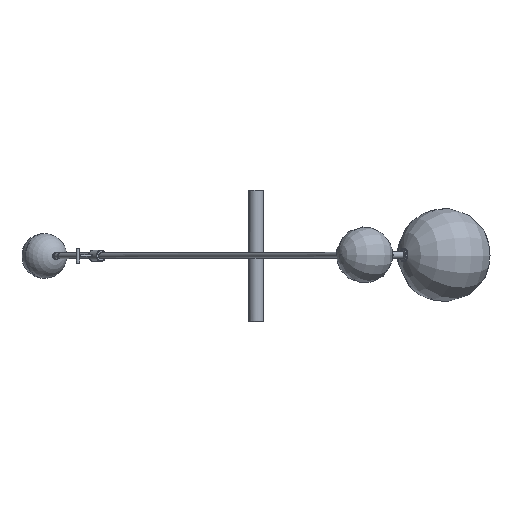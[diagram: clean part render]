
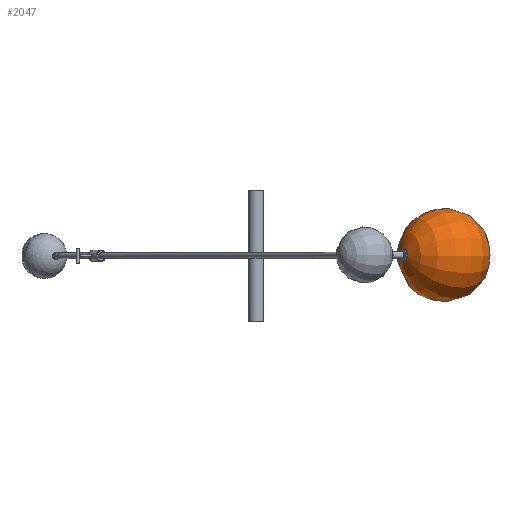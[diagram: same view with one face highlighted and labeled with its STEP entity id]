
A CAD part, top view. The second image highlights one B-rep face of the part: STEP entity #2047.
In plain terms, the highlighted free-form (B-spline) face has degree [2, 2] with [5, 9] control points.
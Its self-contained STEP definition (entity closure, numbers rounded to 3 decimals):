
#20=(
BOUNDED_SURFACE()
B_SPLINE_SURFACE(2,2,((#4102,#4103,#4104,#4105,#4106,#4107,#4108,#4109,
#4110),(#4111,#4112,#4113,#4114,#4115,#4116,#4117,#4118,#4119),(#4120,#4121,
#4122,#4123,#4124,#4125,#4126,#4127,#4128),(#4129,#4130,#4131,#4132,#4133,
#4134,#4135,#4136,#4137),(#4138,#4139,#4140,#4141,#4142,#4143,#4144,#4145,
#4146)),.UNSPECIFIED.,.F.,.T.,.F.)
B_SPLINE_SURFACE_WITH_KNOTS((3,2,3),(3,2,2,2,3),(-1.572,-0.066,
1.439),(-3.142,-1.571,0.,1.571,
3.142),.UNSPECIFIED.)
GEOMETRIC_REPRESENTATION_ITEM()
RATIONAL_B_SPLINE_SURFACE(((1.,0.707,1.,0.707,1.,
0.707,1.,0.707,1.),(0.73,0.516,
0.73,0.516,0.73,0.516,
0.73,0.516,0.73),(1.,0.707,
1.,0.707,1.,0.707,1.,0.707,1.),(0.73,
0.516,0.73,0.516,0.73,0.516,
0.73,0.516,0.73),(1.,0.707,
1.,0.707,1.,0.707,1.,0.707,1.)))
REPRESENTATION_ITEM('')
SURFACE()
);
#282=CIRCLE('',#2336,16.5);
#283=CIRCLE('',#2337,125.);
#284=CIRCLE('',#2338,16.5);
#428=FACE_OUTER_BOUND('',#583,.T.);
#583=EDGE_LOOP('',(#1774,#1775,#1776,#1777));
#964=VERTEX_POINT('',#4147);
#965=VERTEX_POINT('',#4148);
#966=VERTEX_POINT('',#4150);
#1244=EDGE_CURVE('',#964,#965,#282,.T.);
#1245=EDGE_CURVE('',#965,#966,#283,.T.);
#1246=EDGE_CURVE('',#965,#964,#284,.T.);
#1774=ORIENTED_EDGE('',*,*,#1244,.T.);
#1775=ORIENTED_EDGE('',*,*,#1245,.T.);
#1776=ORIENTED_EDGE('',*,*,#1245,.F.);
#1777=ORIENTED_EDGE('',*,*,#1246,.T.);
#2047=ADVANCED_FACE('',(#428),#20,.F.);
#2336=AXIS2_PLACEMENT_3D('',#4149,#2932,#2933);
#2337=AXIS2_PLACEMENT_3D('',#4151,#2934,#2935);
#2338=AXIS2_PLACEMENT_3D('',#4152,#2936,#2937);
#2932=DIRECTION('center_axis',(0.848,0.,
-0.53));
#2933=DIRECTION('ref_axis',(-0.075,-0.99,-0.12));
#2934=DIRECTION('center_axis',(0.489,-0.388,0.781));
#2935=DIRECTION('ref_axis',(-0.206,-0.922,-0.329));
#2936=DIRECTION('center_axis',(0.848,0.,
-0.53));
#2937=DIRECTION('ref_axis',(-0.075,-0.99,-0.12));
#4102=CARTESIAN_POINT('Ctrl Pts',(607.47,0.,
1415.241));
#4103=CARTESIAN_POINT('Ctrl Pts',(607.47,0.,
1415.241));
#4104=CARTESIAN_POINT('Ctrl Pts',(607.47,0.,
1415.241));
#4105=CARTESIAN_POINT('Ctrl Pts',(607.47,0.,
1415.241));
#4106=CARTESIAN_POINT('Ctrl Pts',(607.47,0.,
1415.241));
#4107=CARTESIAN_POINT('Ctrl Pts',(607.47,0.,
1415.241));
#4108=CARTESIAN_POINT('Ctrl Pts',(607.47,0.,
1415.241));
#4109=CARTESIAN_POINT('Ctrl Pts',(607.47,0.,
1415.241));
#4110=CARTESIAN_POINT('Ctrl Pts',(607.47,0.,
1415.241));
#4111=CARTESIAN_POINT('Ctrl Pts',(583.475,-107.932,1376.698));
#4112=CARTESIAN_POINT('Ctrl Pts',(640.728,-153.334,1468.193));
#4113=CARTESIAN_POINT('Ctrl Pts',(664.811,-45.402,1506.681));
#4114=CARTESIAN_POINT('Ctrl Pts',(688.895,62.53,1545.169));
#4115=CARTESIAN_POINT('Ctrl Pts',(631.642,107.932,1453.674));
#4116=CARTESIAN_POINT('Ctrl Pts',(574.389,153.334,1362.178));
#4117=CARTESIAN_POINT('Ctrl Pts',(550.306,45.402,1323.69));
#4118=CARTESIAN_POINT('Ctrl Pts',(526.222,-62.53,1285.202));
#4119=CARTESIAN_POINT('Ctrl Pts',(583.475,-107.932,1376.698));
#4120=CARTESIAN_POINT('Ctrl Pts',(482.838,-115.071,1436.128));
#4121=CARTESIAN_POINT('Ctrl Pts',(543.878,-163.476,1533.675));
#4122=CARTESIAN_POINT('Ctrl Pts',(569.554,-48.405,1574.709));
#4123=CARTESIAN_POINT('Ctrl Pts',(595.231,66.666,1615.742));
#4124=CARTESIAN_POINT('Ctrl Pts',(534.191,115.071,1518.195));
#4125=CARTESIAN_POINT('Ctrl Pts',(473.152,163.476,1420.648));
#4126=CARTESIAN_POINT('Ctrl Pts',(447.475,48.405,1379.615));
#4127=CARTESIAN_POINT('Ctrl Pts',(421.799,-66.666,1338.581));
#4128=CARTESIAN_POINT('Ctrl Pts',(482.838,-115.071,1436.128));
#4129=CARTESIAN_POINT('Ctrl Pts',(382.202,-122.209,1495.559));
#4130=CARTESIAN_POINT('Ctrl Pts',(447.028,-173.617,1599.157));
#4131=CARTESIAN_POINT('Ctrl Pts',(474.298,-51.408,1642.736));
#4132=CARTESIAN_POINT('Ctrl Pts',(501.567,70.802,1686.316));
#4133=CARTESIAN_POINT('Ctrl Pts',(436.741,122.209,1582.717));
#4134=CARTESIAN_POINT('Ctrl Pts',(371.914,173.617,1479.118));
#4135=CARTESIAN_POINT('Ctrl Pts',(344.645,51.408,1435.539));
#4136=CARTESIAN_POINT('Ctrl Pts',(317.375,-70.802,1391.96));
#4137=CARTESIAN_POINT('Ctrl Pts',(382.202,-122.209,1495.559));
#4138=CARTESIAN_POINT('Ctrl Pts',(393.063,-15.209,1541.858));
#4139=CARTESIAN_POINT('Ctrl Pts',(401.131,-21.607,1554.751));
#4140=CARTESIAN_POINT('Ctrl Pts',(404.525,-6.398,1560.175));
#4141=CARTESIAN_POINT('Ctrl Pts',(407.918,8.811,1565.598));
#4142=CARTESIAN_POINT('Ctrl Pts',(399.85,15.209,1552.705));
#4143=CARTESIAN_POINT('Ctrl Pts',(391.783,21.607,1539.812));
#4144=CARTESIAN_POINT('Ctrl Pts',(388.389,6.398,1534.389));
#4145=CARTESIAN_POINT('Ctrl Pts',(384.995,-8.811,1528.965));
#4146=CARTESIAN_POINT('Ctrl Pts',(393.063,-15.209,1541.858));
#4147=CARTESIAN_POINT('',(397.697,16.333,1549.264));
#4148=CARTESIAN_POINT('',(393.063,-15.209,1541.858));
#4149=CARTESIAN_POINT('Origin',(396.457,0.,
1547.282));
#4150=CARTESIAN_POINT('',(607.47,0.,1415.241));
#4151=CARTESIAN_POINT('Origin',(501.483,-0.102,1481.511));
#4152=CARTESIAN_POINT('Origin',(396.457,0.,
1547.282));
